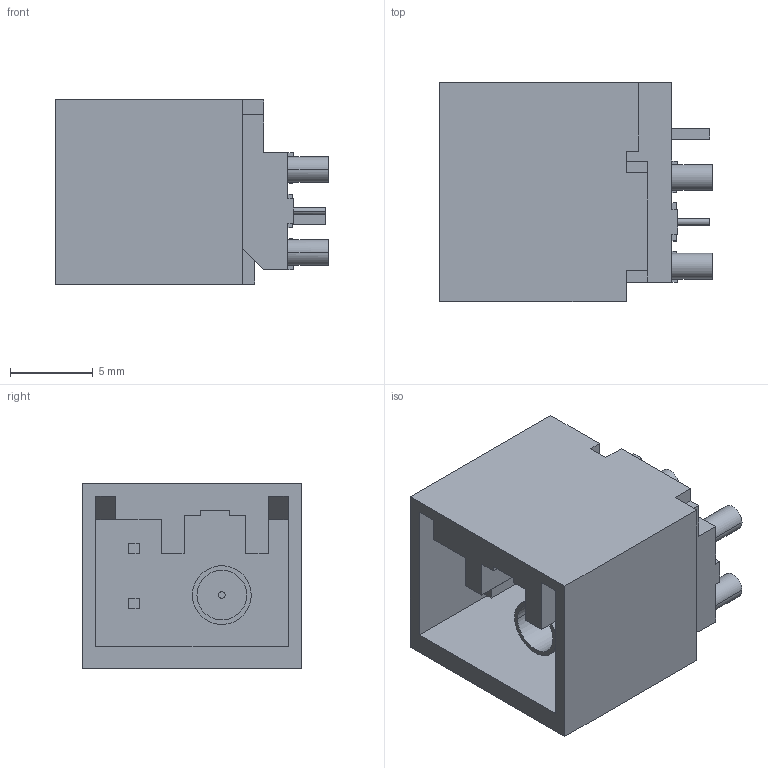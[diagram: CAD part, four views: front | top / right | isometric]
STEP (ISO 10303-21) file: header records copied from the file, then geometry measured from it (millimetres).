
FILE_DESCRIPTION(('CATIA V5 STEP','CAx-IF Rec.Pracs.--- Model Styling and Organization---1.5--- 2016-08-15','CAx-IF Rec.Pracs.---Supplemental Geometry---1.0---2011-11-01','CAx-IF Rec.Pracs.--- Composite Materials ---1.1---2010-07-15'),'2;1');
FILE_NAME('\\fss02.ad.sws.co.jp\fs100070\事務・購入\特命業務\特-35ｰ部品総合カタログメンテナンス\26年度\WEBカタログ用3D\260612_webカタログ新規登録用簡易3D\モデル保存場所\HFC5シリーズ\6099-1562.stp','2026-06-24T10:08:12+00:00',('none'),('none'),'CATIA Version 5-6 Release 2022 SP2 HF23','CATIA V5 STEP AP214 v2','none');
FILE_SCHEMA(('AUTOMOTIVE_DESIGN { 1 0 10303 214 1 1 1 1 }'));
Length unit declared in the file: millimetre
Products named in the file (1): 6099-1562
Bounding box: 16.45 x 13.2 x 11.1 mm (x, y, z)
Volume: 1161.7 mm3; surface area: 1700.3 mm2
Topology: 1 solids, 9 shells, 167 faces, 393 edges, 262 vertices
Faces by surface type: plane 147, cylinder 20
Entity records: 4482 total; most frequent: CARTESIAN_POINT 811, ORIENTED_EDGE 786, DIRECTION 545, EDGE_CURVE 393, VECTOR 353, LINE 353, VERTEX_POINT 262, EDGE_LOOP 185
